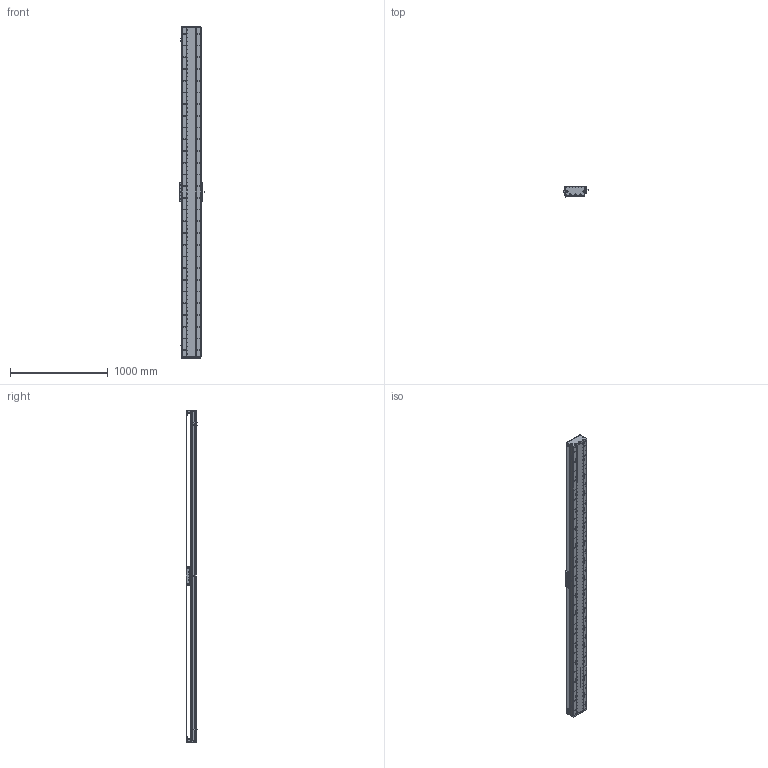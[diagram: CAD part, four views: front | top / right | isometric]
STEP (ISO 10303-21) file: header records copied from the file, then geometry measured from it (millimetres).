
FILE_DESCRIPTION (( 'STEP AP203' ), '1' );
FILE_NAME ('DA-C195-C2-T3120-C010-0.2 眻盄萇儂.STEP', '2025-08-15T01:17:58', ( '' ), ( '' ), 'SwSTEP 2.0', 'SolidWorks 2019', '' );
FILE_SCHEMA (( 'CONFIG_CONTROL_DESIGN' ));
Length unit declared in the file: millimetre
Products named in the file (15): DA195詩湍郪璃; DA195詩湍嶺輸; DA-C195-GD-DB-H-00 傷啣; DA165-GYP-00 光电感应片(默认); LMT黍杅芛; DA-C195-C2-T3120-C010-0.2 眻盄萇儂; CU195-C2賑輸-俋楷; DA195詩湍裔啣; MS200 棠掑喜S315-T1740; DA195詩湍菜輸; DA95-HXJ-00 遣喳砎蝶; IU-CU195-L 菁釱絳寢; PM-T45ㄗ侂狟ㄘ; IU-CU195-L-00 菁釱(L3360); 葩璃 DA95-GT-T-00
Assembly tree (29 placements, depth 3):
  DA-C195-C2-T3120-C010-0.2 眻盄萇儂
    DA195詩湍郪璃
      DA195詩湍菜輸  x2
      DA195詩湍裔啣
      DA195詩湍嶺輸  x2
      DA95-HXJ-00 遣喳砎蝶  x8
      DA-C195-GD-DB-H-00 傷啣  x2
    IU-CU195-L 菁釱絳寢
      IU-CU195-L-00 菁釱(L3360)
      葩璃 DA95-GT-T-00  x4
    LMT黍杅芛
    MS200 棠掑喜S315-T1740
    PM-T45ㄗ侂狟ㄘ  x3
    DA165-GYP-00 光电感应片(默认)
    CU195-C2賑輸-俋楷
Bounding box: 248 x 115.45 x 3400 mm (x, y, z)
Volume: 18977037.9 mm3; surface area: 5662941.8 mm2
Topology: 66 solids, 130 shells, 4702 faces, 13459 edges, 8519 vertices
Faces by surface type: cylinder 2671, plane 1413, cone 530, torus 52, sphere 36
Entity records: 156793 total; most frequent: CARTESIAN_POINT 44538, ORIENTED_EDGE 23802, DIRECTION 22392, EDGE_CURVE 11901, AXIS2_PLACEMENT_3D 8433, VERTEX_POINT 7721, LINE 5526, VECTOR 5526
